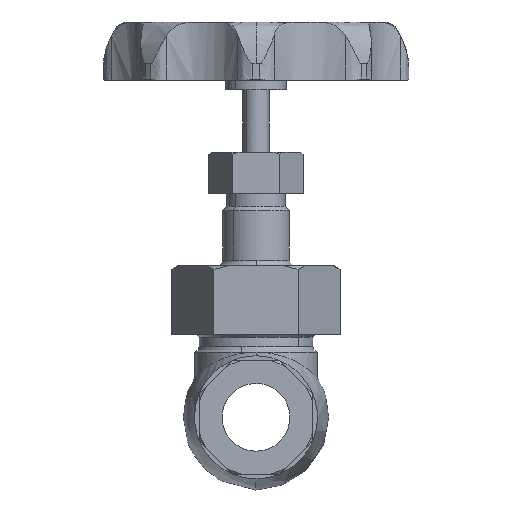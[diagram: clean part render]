
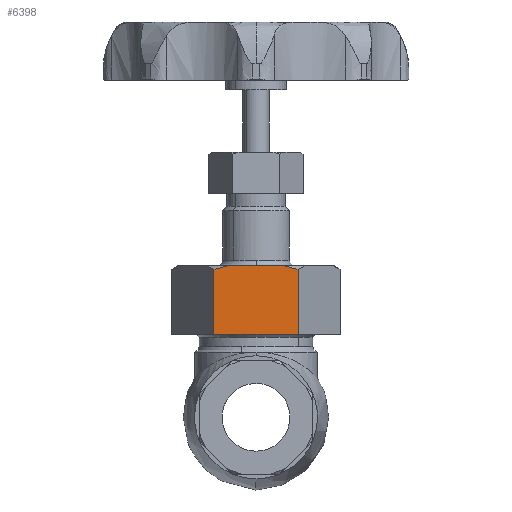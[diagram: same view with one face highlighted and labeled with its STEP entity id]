
A CAD part, left-side view. The second image highlights one B-rep face of the part: STEP entity #6398.
In plain terms, the highlighted free-form (B-spline) face has degree [1, 1] with [2, 2] control points.
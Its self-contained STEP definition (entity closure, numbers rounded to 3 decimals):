
#6195=CARTESIAN_POINT('',(-25.,-14.434,28.5));
#6196=VERTEX_POINT('',#6195);
#6202=CARTESIAN_POINT('',(-25.,14.434,28.5));
#6203=VERTEX_POINT('',#6202);
#6204=CARTESIAN_POINT('',(-25.,-14.434,28.5));
#6205=CARTESIAN_POINT('',(-25.,14.434,28.5));
#6206=QUASI_UNIFORM_CURVE('',1,(#6204,#6205),.UNSPECIFIED.,.F.,.U.);
#6207=EDGE_CURVE('',#6196,#6203,#6206,.T.);
#6326=CARTESIAN_POINT('',(-25.,14.434,50.845));
#6327=VERTEX_POINT('',#6326);
#6351=CARTESIAN_POINT('',(-25.,14.434,28.5));
#6352=CARTESIAN_POINT('',(-25.,14.434,50.845));
#6353=QUASI_UNIFORM_CURVE('',1,(#6351,#6352),.UNSPECIFIED.,.F.,.U.);
#6354=EDGE_CURVE('',#6203,#6327,#6353,.T.);
#6359=CARTESIAN_POINT('',(-25.,-15.876,53.174));
#6360=CARTESIAN_POINT('',(-25.,-15.876,27.326));
#6361=CARTESIAN_POINT('',(-25.,15.876,53.174));
#6362=CARTESIAN_POINT('',(-25.,15.876,27.326));
#6363=B_SPLINE_SURFACE_WITH_KNOTS('',1,1,((#6359,#6361),(#6360,#6362)),.UNSPECIFIED.,.F.,.F.,.U.,(2,2),(2,2),(0.,25.848),(0.,31.751),.UNSPECIFIED.);
#6364=CARTESIAN_POINT('',(-25.,-9.842,52.));
#6365=VERTEX_POINT('',#6364);
#6366=CARTESIAN_POINT('',(-25.,-14.434,50.845));
#6367=VERTEX_POINT('',#6366);
#6368=CARTESIAN_POINT('',(-25.,-9.842,52.));
#6369=CARTESIAN_POINT('',(-25.,-11.386,51.671));
#6370=CARTESIAN_POINT('',(-25.,-12.918,51.286));
#6371=CARTESIAN_POINT('',(-25.,-14.434,50.845));
#6372=B_SPLINE_CURVE_WITH_KNOTS('',3,(#6368,#6369,#6370,#6371),.UNSPECIFIED.,.F.,.U.,(4,4),(0.,4.736),.UNSPECIFIED.);
#6373=EDGE_CURVE('',#6365,#6367,#6372,.T.);
#6374=ORIENTED_EDGE('',*,*,#6373,.F.);
#6375=CARTESIAN_POINT('',(-25.,9.842,52.));
#6376=VERTEX_POINT('',#6375);
#6377=CARTESIAN_POINT('',(-25.,-9.842,52.));
#6378=CARTESIAN_POINT('',(-25.,9.842,52.));
#6379=QUASI_UNIFORM_CURVE('',1,(#6377,#6378),.UNSPECIFIED.,.F.,.U.);
#6380=EDGE_CURVE('',#6365,#6376,#6379,.T.);
#6381=ORIENTED_EDGE('',*,*,#6380,.T.);
#6382=CARTESIAN_POINT('',(-25.,14.434,50.845));
#6383=CARTESIAN_POINT('',(-25.,12.918,51.286));
#6384=CARTESIAN_POINT('',(-25.,11.386,51.671));
#6385=CARTESIAN_POINT('',(-25.,9.842,52.));
#6386=B_SPLINE_CURVE_WITH_KNOTS('',3,(#6382,#6383,#6384,#6385),.UNSPECIFIED.,.F.,.U.,(4,4),(0.,4.736),.UNSPECIFIED.);
#6387=EDGE_CURVE('',#6327,#6376,#6386,.T.);
#6388=ORIENTED_EDGE('',*,*,#6387,.F.);
#6389=ORIENTED_EDGE('',*,*,#6354,.F.);
#6390=ORIENTED_EDGE('',*,*,#6207,.F.);
#6391=CARTESIAN_POINT('',(-25.,-14.434,28.5));
#6392=CARTESIAN_POINT('',(-25.,-14.434,50.845));
#6393=QUASI_UNIFORM_CURVE('',1,(#6391,#6392),.UNSPECIFIED.,.F.,.U.);
#6394=EDGE_CURVE('',#6196,#6367,#6393,.T.);
#6395=ORIENTED_EDGE('',*,*,#6394,.T.);
#6396=EDGE_LOOP('',(#6374,#6381,#6388,#6389,#6390,#6395));
#6397=FACE_OUTER_BOUND('',#6396,.T.);
#6398=ADVANCED_FACE('',(#6397),#6363,.F.);
